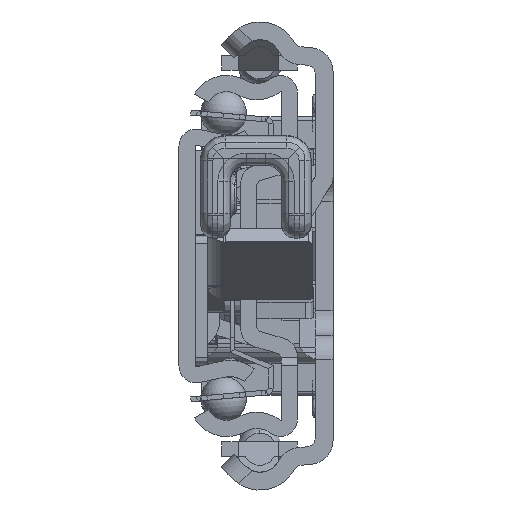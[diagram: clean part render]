
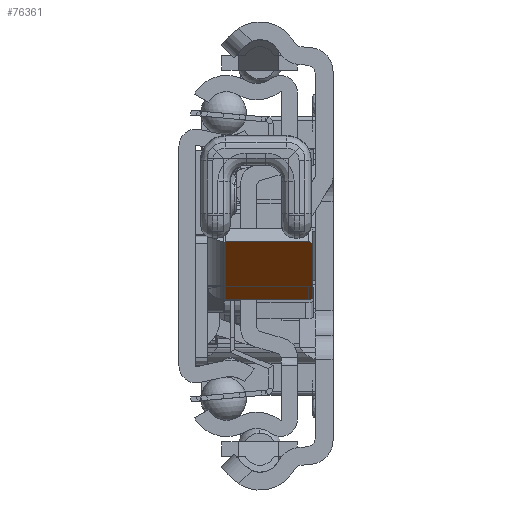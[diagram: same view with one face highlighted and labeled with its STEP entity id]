
A CAD part, left-side view. The second image highlights one B-rep face of the part: STEP entity #76361.
In plain terms, the highlighted planar face has unit normal (-0.595, 0, -0.804) as drawn and (-0.597, -0.802, 0) by its records, which use the part's own axes.
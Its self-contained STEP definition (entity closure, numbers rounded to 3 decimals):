
#75753=DIRECTION('',(0.802,-0.597,0.));
#75754=VECTOR('',#75753,12.);
#75755=CARTESIAN_POINT('',(31.957,-10.314,2.2));
#75756=LINE('',#75755,#75754);
#75781=CARTESIAN_POINT('',(41.184,-17.178,12.5));
#75782=DIRECTION('',(-0.597,-0.802,0.));
#75783=DIRECTION('',(0.802,-0.597,0.));
#75784=AXIS2_PLACEMENT_3D('',#75781,#75782,#75783);
#75786=DIRECTION('',(0.,0.,1.));
#75787=VECTOR('',#75786,10.3);
#75788=CARTESIAN_POINT('',(41.586,-17.476,2.2));
#75789=LINE('',#75788,#75787);
#75790=DIRECTION('',(0.,0.,-1.));
#75791=VECTOR('',#75790,10.3);
#75792=CARTESIAN_POINT('',(31.957,-10.314,12.5));
#75793=LINE('',#75792,#75791);
#75794=CARTESIAN_POINT('',(32.358,-10.613,12.5));
#75795=DIRECTION('',(-0.597,-0.802,0.));
#75796=DIRECTION('',(0.,0.,1.));
#75797=AXIS2_PLACEMENT_3D('',#75794,#75795,#75796);
#75799=DIRECTION('',(-0.802,0.597,0.));
#75800=VECTOR('',#75799,11.);
#75801=CARTESIAN_POINT('',(41.184,-17.178,13.));
#75802=LINE('',#75801,#75800);
#76015=CARTESIAN_POINT('',(31.957,-10.314,2.2));
#76016=CARTESIAN_POINT('',(41.586,-17.476,2.2));
#76017=VERTEX_POINT('',#76015);
#76018=VERTEX_POINT('',#76016);
#76047=CARTESIAN_POINT('',(41.586,-17.476,12.5));
#76048=CARTESIAN_POINT('',(41.184,-17.178,13.));
#76049=VERTEX_POINT('',#76047);
#76050=VERTEX_POINT('',#76048);
#76055=CARTESIAN_POINT('',(32.358,-10.613,13.));
#76056=CARTESIAN_POINT('',(31.957,-10.314,12.5));
#76057=VERTEX_POINT('',#76055);
#76058=VERTEX_POINT('',#76056);
#76343=CARTESIAN_POINT('',(34.726,-12.374,0.));
#76344=DIRECTION('',(-0.597,-0.802,0.));
#76345=DIRECTION('',(0.802,-0.597,0.));
#76346=AXIS2_PLACEMENT_3D('',#76343,#76344,#76345);
#76347=PLANE('',#76346);
#76349=ORIENTED_EDGE('',*,*,#76348,.F.);
#76351=ORIENTED_EDGE('',*,*,#76350,.F.);
#76352=ORIENTED_EDGE('',*,*,#76330,.F.);
#76354=ORIENTED_EDGE('',*,*,#76353,.F.);
#76356=ORIENTED_EDGE('',*,*,#76355,.F.);
#76358=ORIENTED_EDGE('',*,*,#76357,.F.);
#76359=EDGE_LOOP('',(#76349,#76351,#76352,#76354,#76356,#76358));
#76360=FACE_OUTER_BOUND('',#76359,.F.);
#75785=CIRCLE('',#75784,0.5);
#75798=CIRCLE('',#75797,0.5);
#76330=EDGE_CURVE('',#76017,#76018,#75756,.T.);
#76348=EDGE_CURVE('',#76049,#76050,#75785,.T.);
#76350=EDGE_CURVE('',#76018,#76049,#75789,.T.);
#76353=EDGE_CURVE('',#76058,#76017,#75793,.T.);
#76355=EDGE_CURVE('',#76057,#76058,#75798,.T.);
#76357=EDGE_CURVE('',#76050,#76057,#75802,.T.);
#76361=ADVANCED_FACE('',(#76360),#76347,.T.);
